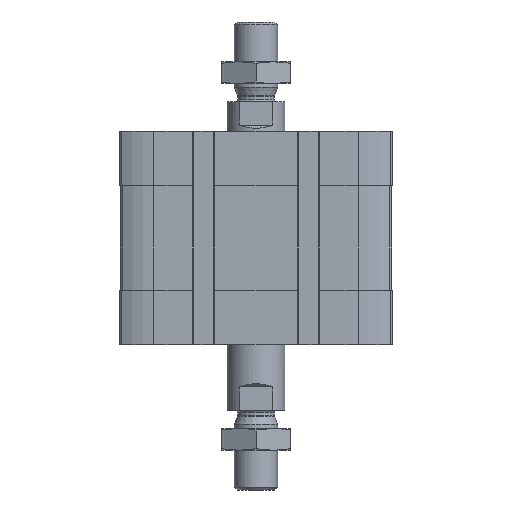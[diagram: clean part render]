
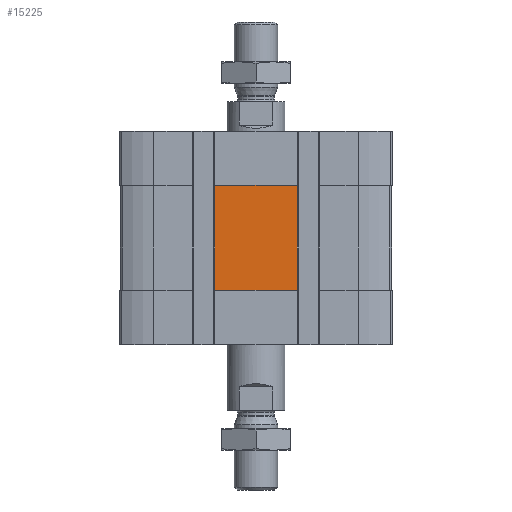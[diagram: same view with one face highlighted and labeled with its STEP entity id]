
A CAD part, front view. The second image highlights one B-rep face of the part: STEP entity #15225.
In plain terms, the highlighted planar face has unit normal (0, -1, 0).
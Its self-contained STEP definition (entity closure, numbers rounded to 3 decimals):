
#825 = LINE ( 'NONE', #11300, #10862 ) ;
#1231 = ORIENTED_EDGE ( 'NONE', *, *, #7618, .F. ) ;
#1234 = EDGE_CURVE ( 'NONE', #3226, #10465, #14479, .T. ) ;
#1705 = PLANE ( 'NONE',  #15606 ) ;
#1978 = DIRECTION ( 'NONE',  ( 0., 0., -1. ) ) ;
#2439 = DIRECTION ( 'NONE',  ( 0., 0., 1. ) ) ;
#2569 = LINE ( 'NONE', #13029, #16424 ) ;
#3226 = VERTEX_POINT ( 'NONE', #15481 ) ;
#3791 = EDGE_LOOP ( 'NONE', ( #9683, #1231, #12127, #4551 ) ) ;
#3981 = CARTESIAN_POINT ( 'NONE',  ( -11.4, -37.5, -15. ) ) ;
#4551 = ORIENTED_EDGE ( 'NONE', *, *, #1234, .T. ) ;
#4790 = DIRECTION ( 'NONE',  ( 0., -1., 0. ) ) ;
#5988 = DIRECTION ( 'NONE',  ( 0., 0., 1. ) ) ;
#5997 = CARTESIAN_POINT ( 'NONE',  ( -11.4, -37.5, -44. ) ) ;
#6240 = VECTOR ( 'NONE', #2439, 1000. ) ;
#6991 = CARTESIAN_POINT ( 'NONE',  ( -11.4, -37.5, -15. ) ) ;
#7618 = EDGE_CURVE ( 'NONE', #8943, #14240, #825, .T. ) ;
#8943 = VERTEX_POINT ( 'NONE', #13282 ) ;
#9683 = ORIENTED_EDGE ( 'NONE', *, *, #11945, .F. ) ;
#10465 = VERTEX_POINT ( 'NONE', #14748 ) ;
#10862 = VECTOR ( 'NONE', #5988, 1000. ) ;
#11300 = CARTESIAN_POINT ( 'NONE',  ( -11.4, -37.5, -44. ) ) ;
#11320 = VECTOR ( 'NONE', #13958, 1000. ) ;
#11945 = EDGE_CURVE ( 'NONE', #14240, #10465, #12473, .T. ) ;
#12127 = ORIENTED_EDGE ( 'NONE', *, *, #15127, .T. ) ;
#12473 = LINE ( 'NONE', #6991, #11320 ) ;
#13029 = CARTESIAN_POINT ( 'NONE',  ( -11.4, -37.5, -44. ) ) ;
#13282 = CARTESIAN_POINT ( 'NONE',  ( -11.4, -37.5, -44. ) ) ;
#13958 = DIRECTION ( 'NONE',  ( 1., 0., 0. ) ) ;
#14012 = FACE_OUTER_BOUND ( 'NONE', #3791, .T. ) ;
#14240 = VERTEX_POINT ( 'NONE', #3981 ) ;
#14479 = LINE ( 'NONE', #15948, #6240 ) ;
#14514 = DIRECTION ( 'NONE',  ( 1., 0., 0. ) ) ;
#14748 = CARTESIAN_POINT ( 'NONE',  ( 11.4, -37.5, -15. ) ) ;
#15127 = EDGE_CURVE ( 'NONE', #8943, #3226, #2569, .T. ) ;
#15225 = ADVANCED_FACE ( 'NONE', ( #14012 ), #1705, .T. ) ;
#15481 = CARTESIAN_POINT ( 'NONE',  ( 11.4, -37.5, -44. ) ) ;
#15606 = AXIS2_PLACEMENT_3D ( 'NONE', #5997, #4790, #1978 ) ;
#15948 = CARTESIAN_POINT ( 'NONE',  ( 11.4, -37.5, -44. ) ) ;
#16424 = VECTOR ( 'NONE', #14514, 1000. ) ;
